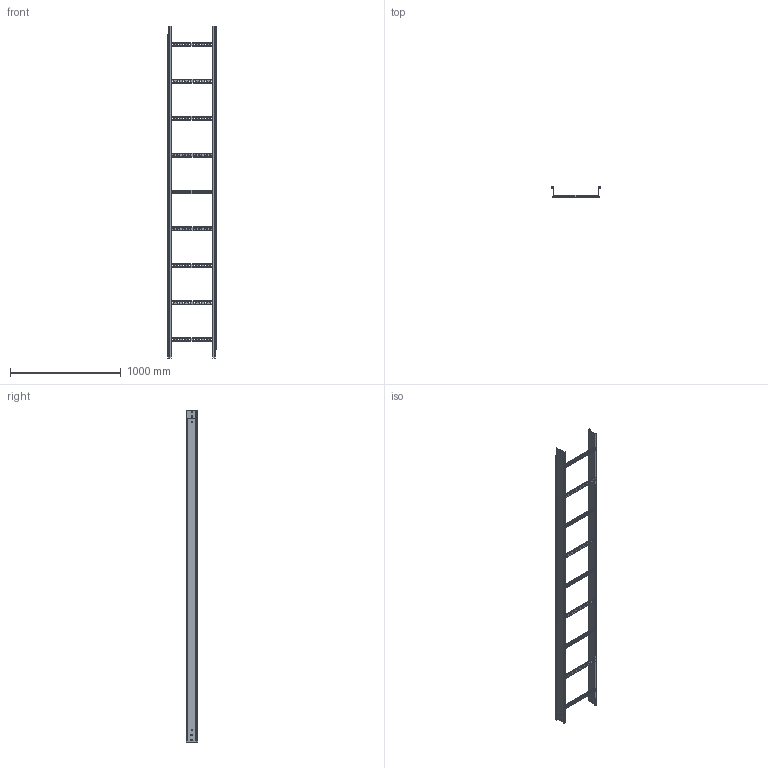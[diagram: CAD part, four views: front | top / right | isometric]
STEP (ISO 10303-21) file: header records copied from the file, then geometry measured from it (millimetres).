
FILE_DESCRIPTION (( 'STEP AP203' ), '1' );
FILE_NAME ('FE trav35 H60-75-100 p333 400x100.step', '2023-07-28T15:28:41', ( '' ), ( '' ), 'SwSTEP 2.0', 'SolidWorks 2022', '' );
FILE_SCHEMA (( 'CONFIG_CONTROL_DESIGN' ));
Length unit declared in the file: millimetre
Products named in the file (3): FE trav35 H60-75-100 p333 400x100; FE_MONTANTE_100x2; FE_RA35_400
Assembly tree (11 placements, depth 2):
  FE trav35 H60-75-100 p333 400x100
    FE_MONTANTE_100x2  x2
    FE_RA35_400  x9
Bounding box: 434 x 102 x 3000 mm (x, y, z)
Volume: 2100938.1 mm3; surface area: 2272351.4 mm2
Topology: 11 solids, 11 shells, 868 faces, 2248 edges, 1402 vertices
Faces by surface type: plane 512, cylinder 352, bspline 4
Entity records: 6137 total; most frequent: CARTESIAN_POINT 1345, DIRECTION 917, ORIENTED_EDGE 876, EDGE_CURVE 438, AXIS2_PLACEMENT_3D 324, VERTEX_POINT 281, VECTOR 269, LINE 269
